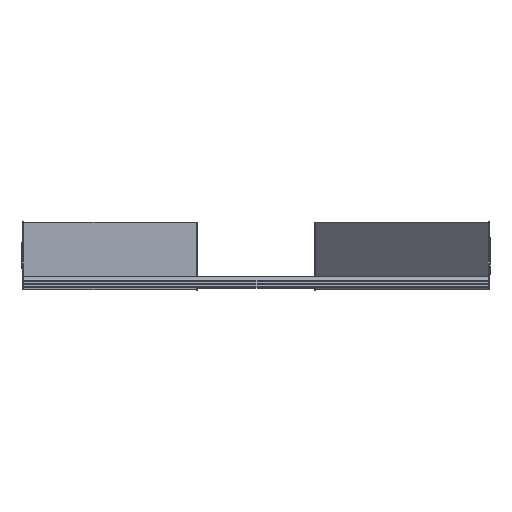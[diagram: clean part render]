
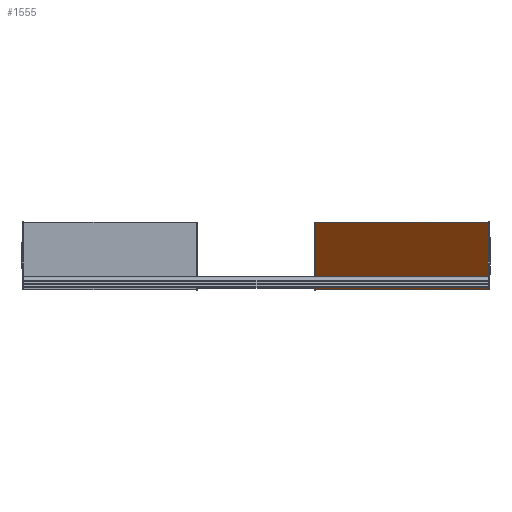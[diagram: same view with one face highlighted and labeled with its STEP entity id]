
A CAD part, top view. The second image highlights one B-rep face of the part: STEP entity #1555.
In plain terms, the highlighted planar face has unit normal (-0.779, 0, 0.626).
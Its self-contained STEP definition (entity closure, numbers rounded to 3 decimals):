
#22 = ORIENTED_EDGE ( 'NONE', *, *, #7209, .T. ) ;
#201 = VECTOR ( 'NONE', #5250, 1000. ) ;
#269 = FACE_OUTER_BOUND ( 'NONE', #7006, .T. ) ;
#306 = AXIS2_PLACEMENT_3D ( 'NONE', #870, #989, #5875 ) ;
#870 = CARTESIAN_POINT ( 'NONE',  ( 300., 87., 0. ) ) ;
#919 = CARTESIAN_POINT ( 'NONE',  ( 75.772, 0., -279.04 ) ) ;
#989 = DIRECTION ( 'NONE',  ( -0.78, 0., 0.626 ) ) ;
#1094 = DIRECTION ( 'NONE',  ( -0.626, 0., -0.78 ) ) ;
#1228 = VERTEX_POINT ( 'NONE', #7796 ) ;
#1317 = LINE ( 'NONE', #7870, #4035 ) ;
#1555 = ADVANCED_FACE ( 'NONE', ( #269 ), #3269, .T. ) ;
#1572 = ORIENTED_EDGE ( 'NONE', *, *, #5074, .F. ) ;
#1694 = LINE ( 'NONE', #2467, #7345 ) ;
#1742 = CARTESIAN_POINT ( 'NONE',  ( 75.772, 0., -279.04 ) ) ;
#1954 = LINE ( 'NONE', #4446, #5369 ) ;
#2081 = ORIENTED_EDGE ( 'NONE', *, *, #6925, .T. ) ;
#2248 = ORIENTED_EDGE ( 'NONE', *, *, #3031, .F. ) ;
#2402 = DIRECTION ( 'NONE',  ( 0., 1., 0. ) ) ;
#2467 = CARTESIAN_POINT ( 'NONE',  ( 300., 87., 0. ) ) ;
#3031 = EDGE_CURVE ( 'NONE', #6524, #4153, #4490, .T. ) ;
#3269 = PLANE ( 'NONE',  #306 ) ;
#3367 = CARTESIAN_POINT ( 'NONE',  ( 75.772, 87., -279.04 ) ) ;
#4035 = VECTOR ( 'NONE', #2402, 1000. ) ;
#4153 = VERTEX_POINT ( 'NONE', #3367 ) ;
#4446 = CARTESIAN_POINT ( 'NONE',  ( 300., 0., 0. ) ) ;
#4478 = VERTEX_POINT ( 'NONE', #5723 ) ;
#4490 = LINE ( 'NONE', #919, #201 ) ;
#5074 = EDGE_CURVE ( 'NONE', #4478, #6524, #1954, .T. ) ;
#5250 = DIRECTION ( 'NONE',  ( 0., 1., 0. ) ) ;
#5369 = VECTOR ( 'NONE', #6869, 1000. ) ;
#5723 = CARTESIAN_POINT ( 'NONE',  ( 299.669, 0., -0.412 ) ) ;
#5875 = DIRECTION ( 'NONE',  ( 0.626, 0., 0.78 ) ) ;
#6524 = VERTEX_POINT ( 'NONE', #1742 ) ;
#6869 = DIRECTION ( 'NONE',  ( -0.626, 0., -0.78 ) ) ;
#6925 = EDGE_CURVE ( 'NONE', #1228, #4153, #1694, .T. ) ;
#7006 = EDGE_LOOP ( 'NONE', ( #2248, #1572, #22, #2081 ) ) ;
#7209 = EDGE_CURVE ( 'NONE', #4478, #1228, #1317, .T. ) ;
#7345 = VECTOR ( 'NONE', #1094, 1000. ) ;
#7796 = CARTESIAN_POINT ( 'NONE',  ( 299.669, 87., -0.412 ) ) ;
#7870 = CARTESIAN_POINT ( 'NONE',  ( 299.669, 0., -0.412 ) ) ;
